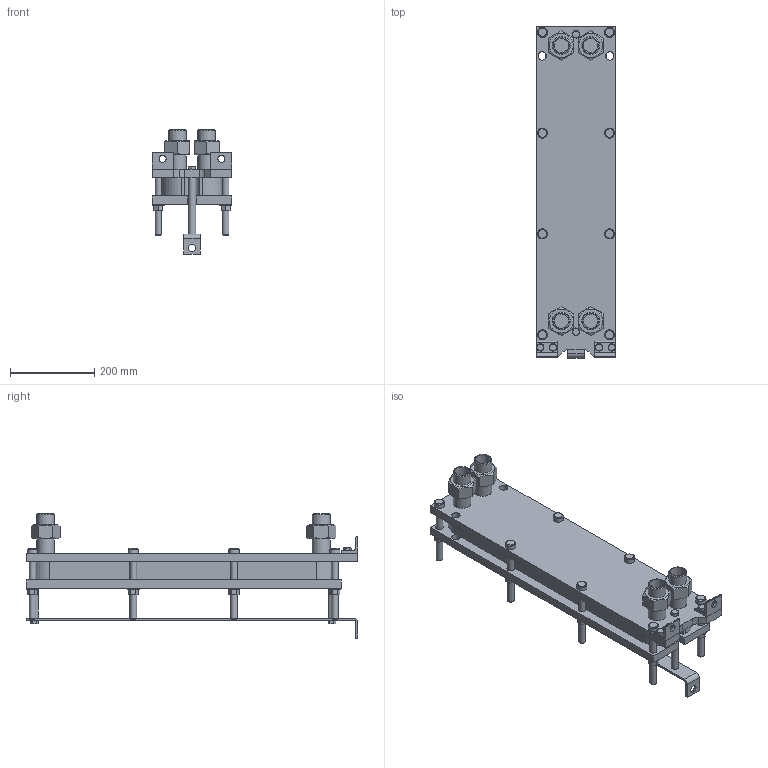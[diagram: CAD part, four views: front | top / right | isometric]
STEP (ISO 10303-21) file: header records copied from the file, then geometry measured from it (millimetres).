
FILE_DESCRIPTION(/* description */ (''),/* implementation_level */ '2;1');
FILE_NAME(/* name */ 'C:\Users\zhuro\Desktop\ENCO\TO\ЭН-008\ЭН-0,5-008-14-1.stp',/* time_stamp */ '2022-06-06T10:46:02+03:00',/* author */ ('zhuro'),/* organization */ (''),/* preprocessor_version */ 'ST-DEVELOPER v18.1',/* originating_system */ 'Autodesk Inventor 2022',/* authorisation */ '');
FILE_SCHEMA (('AUTOMOTIVE_DESIGN { 1 0 10303 214 3 1 1 }'));
Length unit declared in the file: millimetre
Products named in the file (1): ЭН-0,5-008-14-1
Bounding box: 190 x 790 x 296.2 mm (x, y, z)
Volume: 11032537.9 mm3; surface area: 1294065.4 mm2
Topology: 40 solids, 40 shells, 428 faces, 924 edges, 606 vertices
Faces by surface type: plane 273, cylinder 109, cone 40, torus 6
Full cylindrical faces by diameter (mm): 12 x6, 14 x2, 16 x20, 17 x8, 18 x19, 20 x5, 24 x8, 28 x8, 34.3 x8, 42.3 x8
Entity records: 15843 total; most frequent: CARTESIAN_POINT 5991, DIRECTION 1984, ORIENTED_EDGE 1848, EDGE_CURVE 924, AXIS2_PLACEMENT_3D 715, VERTEX_POINT 606, LINE 554, VECTOR 554
